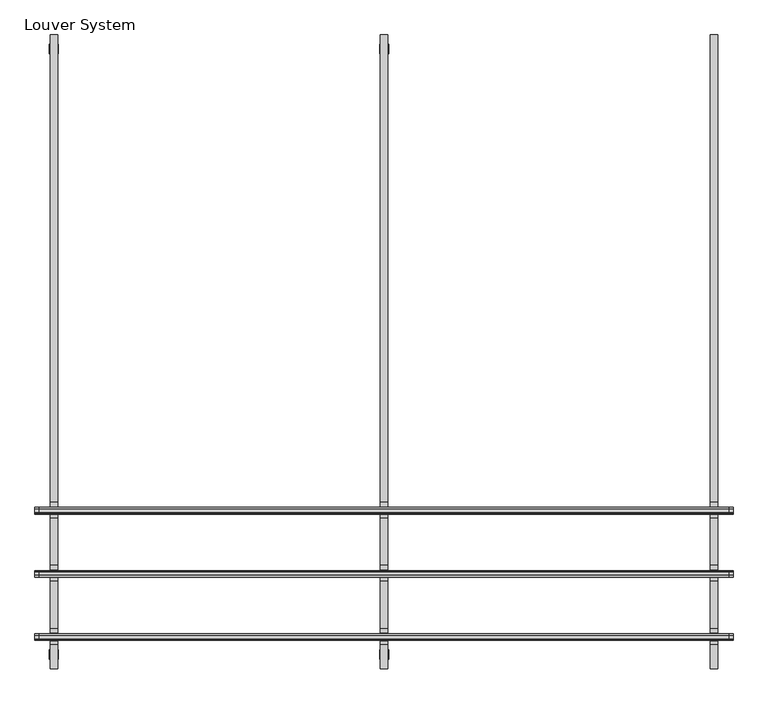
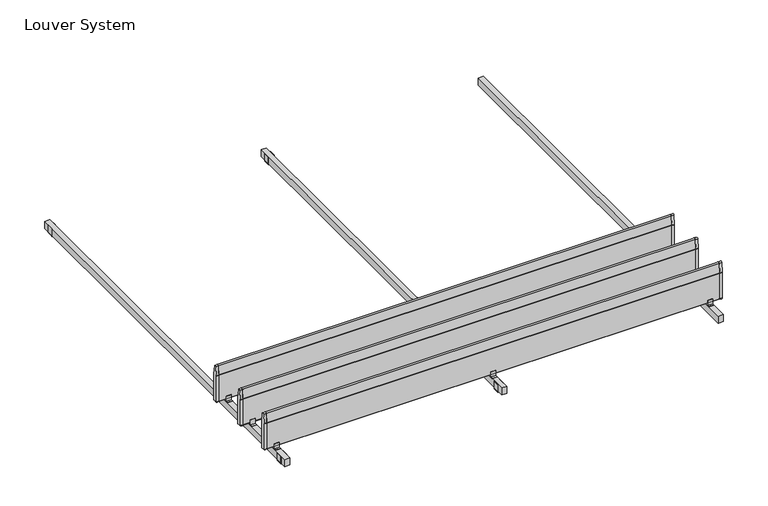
"""IFC4 building model written with IfcOpenShell, lengths in millimetres: geographic element geometry, Site_Danpal_AURA-Louvers : Louver System."""

from ifc_helpers import new_model, si_unit, point, frame, frame_2d, origin, place, context, project, spatial, polyline, circle_curve, trimmed, segment, composite_curve, outline, extrude, source, transform, mapped, element, save


def louver_system_b39b6830(model_context):
    return source(origin(), model_context, "Body", "SweptSolid", [
        extrude(outline(polyline([(1770.0000379, -1044.8564736), (1729.9999621, -1044.8564736), (1729.9999621, 2313.8435264), (1770.0000379, 2313.8435264), (1770.0000379, -1044.8564736)])), frame((0.0, 0.0, 7.6024905), z_axis=(0.0, 0.0, 1.0), x_axis=(1.0, 0.0, 0.0)), (0.0, 0.0, 1.0), 59.9995261),
        extrude(outline(polyline([(-226.5547067, 70.2377043), (-226.5547067, 112.7549354), (-225.1435264, 113.8288881), (-225.1435264, 87.8154527), (-190.0960896, 87.8154527), (-190.0960896, 114.4037008), (-188.3020227, 113.6522063), (-188.3020227, 73.9851105), (-188.3020227, 70.126602), (-162.5974003, 70.126602), (-162.5974003, 67.6050052), (-244.2757672, 67.6050052), (-244.2757672, 70.2377043), (-226.5547067, 70.2377043)])), frame((1730.0, 0.0, 0.0), z_axis=(1.0, 0.0, 0.0), x_axis=(0.0, 1.0, 0.0)), (0.0, 0.0, 1.0), 40.0),
        extrude(outline(polyline([(-226.5547067, 70.2377043), (-226.5547067, 112.7549354), (-225.1435264, 113.8288881), (-225.1435264, 87.8154527), (-190.0960896, 87.8154527), (-190.0960896, 114.4037008), (-188.3020227, 113.6522063), (-188.3020227, 73.9851105), (-188.3020227, 70.126602), (-162.5974003, 70.126602), (-162.5974003, 67.6050052), (-244.2757672, 67.6050052), (-244.2757672, 70.2377043), (-226.5547067, 70.2377043)])), frame((-20.0, 0.0, 0.0), z_axis=(1.0, 0.0, 0.0), x_axis=(0.0, 1.0, 0.0)), (0.0, 0.0, 1.0), 40.0),
        extrude(outline(polyline([(-226.5547067, 70.2377043), (-226.5547067, 112.7549354), (-225.1435264, 113.8288881), (-225.1435264, 87.8154527), (-190.0960896, 87.8154527), (-190.0960896, 114.4037008), (-188.3020227, 113.6522063), (-188.3020227, 73.9851105), (-188.3020227, 70.126602), (-162.5974003, 70.126602), (-162.5974003, 67.6050052), (-244.2757672, 67.6050052), (-244.2757672, 70.2377043), (-226.5547067, 70.2377043)])), frame((-1770.0, 0.0, 0.0), z_axis=(1.0, 0.0, 0.0), x_axis=(0.0, 1.0, 0.0)), (0.0, 0.0, 1.0), 40.0),
        extrude(outline(composite_curve([segment(polyline([(-190.0960896, 309.4391712), (-190.0960896, 90.2391712)]), True, "CONTINUOUS"), segment(trimmed(circle_curve(frame_2d((-192.519808, 90.2391712)), 2.4237184), [point((-190.0960896, 90.2391712))], [point((-192.519808, 87.8154527))], False, "CARTESIAN"), True, "CONTINUOUS"), segment(polyline([(-192.519808, 87.8154527), (-222.719808, 87.8154527)]), True, "CONTINUOUS"), segment(trimmed(circle_curve(frame_2d((-222.719808, 90.2391712)), 2.4237184), [point((-222.719808, 87.8154527))], [point((-225.1435264, 90.2391712))], False, "CARTESIAN"), True, "CONTINUOUS"), segment(polyline([(-225.1435264, 90.2391712), (-225.1435264, 309.4391712)]), True, "CONTINUOUS"), segment(trimmed(circle_curve(frame_2d((-192.519808, 309.4391712)), 32.6237184), [point((-225.1435264, 309.4391712))], [point((-224.8656461, 313.6881427))], False, "CARTESIAN"), True, "CONTINUOUS"), segment(polyline([(-224.8656461, 313.6881427), (-215.1785896, 387.4320979)]), True, "CONTINUOUS"), segment(trimmed(circle_curve(frame_2d((-207.619808, 386.4391712)), 7.6237184), [point((-215.1785896, 387.4320979))], [point((-200.0610264, 387.4320979))], False, "CARTESIAN"), True, "CONTINUOUS"), segment(polyline([(-200.0610264, 387.4320979), (-190.3739698, 313.6881427)]), True, "CONTINUOUS"), segment(trimmed(circle_curve(frame_2d((-222.719808, 309.4391712)), 32.6237184), [point((-190.3739698, 313.6881427))], [point((-190.0960896, 309.4391712))], False, "CARTESIAN"), True, "CONTINUOUS")], self_intersect=False)), frame((1829.9281148, 0.0, 0.0), z_axis=(1.0, 0.0, 0.0), x_axis=(0.0, 1.0, 0.0)), (0.0, 0.0, 1.0), 20.0718852),
        extrude(outline(composite_curve([segment(polyline([(-190.0960896, 309.4391712), (-190.0960896, 90.2391712)]), True, "CONTINUOUS"), segment(trimmed(circle_curve(frame_2d((-192.519808, 90.2391712)), 2.4237184), [point((-190.0960896, 90.2391712))], [point((-192.519808, 87.8154527))], False, "CARTESIAN"), True, "CONTINUOUS"), segment(polyline([(-192.519808, 87.8154527), (-222.719808, 87.8154527)]), True, "CONTINUOUS"), segment(trimmed(circle_curve(frame_2d((-222.719808, 90.2391712)), 2.4237184), [point((-222.719808, 87.8154527))], [point((-225.1435264, 90.2391712))], False, "CARTESIAN"), True, "CONTINUOUS"), segment(polyline([(-225.1435264, 90.2391712), (-225.1435264, 309.4391712)]), True, "CONTINUOUS"), segment(trimmed(circle_curve(frame_2d((-192.519808, 309.4391712)), 32.6237184), [point((-225.1435264, 309.4391712))], [point((-224.8656461, 313.6881427))], False, "CARTESIAN"), True, "CONTINUOUS"), segment(polyline([(-224.8656461, 313.6881427), (-215.1785896, 387.4320979)]), True, "CONTINUOUS"), segment(trimmed(circle_curve(frame_2d((-207.619808, 386.4391712)), 7.6237184), [point((-215.1785896, 387.4320979))], [point((-200.0610264, 387.4320979))], False, "CARTESIAN"), True, "CONTINUOUS"), segment(polyline([(-200.0610264, 387.4320979), (-190.3739698, 313.6881427)]), True, "CONTINUOUS"), segment(trimmed(circle_curve(frame_2d((-222.719808, 309.4391712)), 32.6237184), [point((-190.3739698, 313.6881427))], [point((-190.0960896, 309.4391712))], False, "CARTESIAN"), True, "CONTINUOUS")], self_intersect=False)), frame((-1850.0, 0.0, 0.0), z_axis=(1.0, 0.0, 0.0), x_axis=(0.0, 1.0, 0.0)), (0.0, 0.0, 1.0), 20.0),
        extrude(outline(composite_curve([segment(polyline([(-190.0960896, 309.4391712), (-190.0960896, 90.2391712)]), True, "CONTINUOUS"), segment(trimmed(circle_curve(frame_2d((-192.519808, 90.2391712)), 2.4237184), [point((-190.0960896, 90.2391712))], [point((-192.519808, 87.8154527))], False, "CARTESIAN"), True, "CONTINUOUS"), segment(polyline([(-192.519808, 87.8154527), (-222.719808, 87.8154527)]), True, "CONTINUOUS"), segment(trimmed(circle_curve(frame_2d((-222.719808, 90.2391712)), 2.4237184), [point((-222.719808, 87.8154527))], [point((-225.1435264, 90.2391712))], False, "CARTESIAN"), True, "CONTINUOUS"), segment(polyline([(-225.1435264, 90.2391712), (-225.1435264, 309.4391712)]), True, "CONTINUOUS"), segment(trimmed(circle_curve(frame_2d((-192.519808, 309.4391712)), 32.6237184), [point((-225.1435264, 309.4391712))], [point((-224.8656461, 313.6881427))], False, "CARTESIAN"), True, "CONTINUOUS"), segment(polyline([(-224.8656461, 313.6881427), (-215.1785896, 387.4320979)]), True, "CONTINUOUS"), segment(trimmed(circle_curve(frame_2d((-207.619808, 386.4391712)), 7.6237184), [point((-215.1785896, 387.4320979))], [point((-200.0610264, 387.4320979))], False, "CARTESIAN"), True, "CONTINUOUS"), segment(polyline([(-200.0610264, 387.4320979), (-190.3739698, 313.6881427)]), True, "CONTINUOUS"), segment(trimmed(circle_curve(frame_2d((-222.719808, 309.4391712)), 32.6237184), [point((-190.3739698, 313.6881427))], [point((-190.0960896, 309.4391712))], False, "CARTESIAN"), True, "CONTINUOUS")], self_intersect=False)), frame((-1830.0, 0.0, 0.0), z_axis=(1.0, 0.0, 0.0), x_axis=(0.0, 1.0, 0.0)), (0.0, 0.0, 1.0), 3659.9281148),
        extrude(outline(polyline([(-561.5547067, 70.2377043), (-561.5547067, 112.7549354), (-560.1435264, 113.8288881), (-560.1435264, 87.8154527), (-525.0960896, 87.8154527), (-525.0960896, 114.4037008), (-523.3020227, 113.6522063), (-523.3020227, 73.9851105), (-523.3020227, 70.126602), (-497.5974003, 70.126602), (-497.5974003, 67.6050052), (-579.2757672, 67.6050052), (-579.2757672, 70.2377043), (-561.5547067, 70.2377043)])), frame((1730.0, 0.0, 0.0), z_axis=(1.0, 0.0, 0.0), x_axis=(0.0, 1.0, 0.0)), (0.0, 0.0, 1.0), 40.0),
        extrude(outline(polyline([(-561.5547067, 70.2377043), (-561.5547067, 112.7549354), (-560.1435264, 113.8288881), (-560.1435264, 87.8154527), (-525.0960896, 87.8154527), (-525.0960896, 114.4037008), (-523.3020227, 113.6522063), (-523.3020227, 73.9851105), (-523.3020227, 70.126602), (-497.5974003, 70.126602), (-497.5974003, 67.6050052), (-579.2757672, 67.6050052), (-579.2757672, 70.2377043), (-561.5547067, 70.2377043)])), frame((-20.0, 0.0, 0.0), z_axis=(1.0, 0.0, 0.0), x_axis=(0.0, 1.0, 0.0)), (0.0, 0.0, 1.0), 40.0),
        extrude(outline(polyline([(-561.5547067, 70.2377043), (-561.5547067, 112.7549354), (-560.1435264, 113.8288881), (-560.1435264, 87.8154527), (-525.0960896, 87.8154527), (-525.0960896, 114.4037008), (-523.3020227, 113.6522063), (-523.3020227, 73.9851105), (-523.3020227, 70.126602), (-497.5974003, 70.126602), (-497.5974003, 67.6050052), (-579.2757672, 67.6050052), (-579.2757672, 70.2377043), (-561.5547067, 70.2377043)])), frame((-1770.0, 0.0, 0.0), z_axis=(1.0, 0.0, 0.0), x_axis=(0.0, 1.0, 0.0)), (0.0, 0.0, 1.0), 40.0),
        extrude(outline(composite_curve([segment(polyline([(-525.0960896, 309.4391712), (-525.0960896, 90.2391712)]), True, "CONTINUOUS"), segment(trimmed(circle_curve(frame_2d((-527.519808, 90.2391712)), 2.4237184), [point((-525.0960896, 90.2391712))], [point((-527.519808, 87.8154527))], False, "CARTESIAN"), True, "CONTINUOUS"), segment(polyline([(-527.519808, 87.8154527), (-557.719808, 87.8154527)]), True, "CONTINUOUS"), segment(trimmed(circle_curve(frame_2d((-557.719808, 90.2391712)), 2.4237184), [point((-557.719808, 87.8154527))], [point((-560.1435264, 90.2391712))], False, "CARTESIAN"), True, "CONTINUOUS"), segment(polyline([(-560.1435264, 90.2391712), (-560.1435264, 309.4391712)]), True, "CONTINUOUS"), segment(trimmed(circle_curve(frame_2d((-527.519808, 309.4391712)), 32.6237184), [point((-560.1435264, 309.4391712))], [point((-559.8656461, 313.6881427))], False, "CARTESIAN"), True, "CONTINUOUS"), segment(polyline([(-559.8656461, 313.6881427), (-550.1785896, 387.4320979)]), True, "CONTINUOUS"), segment(trimmed(circle_curve(frame_2d((-542.619808, 386.4391712)), 7.6237184), [point((-550.1785896, 387.4320979))], [point((-535.0610264, 387.4320979))], False, "CARTESIAN"), True, "CONTINUOUS"), segment(polyline([(-535.0610264, 387.4320979), (-525.3739698, 313.6881427)]), True, "CONTINUOUS"), segment(trimmed(circle_curve(frame_2d((-557.719808, 309.4391712)), 32.6237184), [point((-525.3739698, 313.6881427))], [point((-525.0960896, 309.4391712))], False, "CARTESIAN"), True, "CONTINUOUS")], self_intersect=False)), frame((1829.9281148, 0.0, 0.0), z_axis=(1.0, 0.0, 0.0), x_axis=(0.0, 1.0, 0.0)), (0.0, 0.0, 1.0), 20.0718852),
        extrude(outline(composite_curve([segment(polyline([(-525.0960896, 309.4391712), (-525.0960896, 90.2391712)]), True, "CONTINUOUS"), segment(trimmed(circle_curve(frame_2d((-527.519808, 90.2391712)), 2.4237184), [point((-525.0960896, 90.2391712))], [point((-527.519808, 87.8154527))], False, "CARTESIAN"), True, "CONTINUOUS"), segment(polyline([(-527.519808, 87.8154527), (-557.719808, 87.8154527)]), True, "CONTINUOUS"), segment(trimmed(circle_curve(frame_2d((-557.719808, 90.2391712)), 2.4237184), [point((-557.719808, 87.8154527))], [point((-560.1435264, 90.2391712))], False, "CARTESIAN"), True, "CONTINUOUS"), segment(polyline([(-560.1435264, 90.2391712), (-560.1435264, 309.4391712)]), True, "CONTINUOUS"), segment(trimmed(circle_curve(frame_2d((-527.519808, 309.4391712)), 32.6237184), [point((-560.1435264, 309.4391712))], [point((-559.8656461, 313.6881427))], False, "CARTESIAN"), True, "CONTINUOUS"), segment(polyline([(-559.8656461, 313.6881427), (-550.1785896, 387.4320979)]), True, "CONTINUOUS"), segment(trimmed(circle_curve(frame_2d((-542.619808, 386.4391712)), 7.6237184), [point((-550.1785896, 387.4320979))], [point((-535.0610264, 387.4320979))], False, "CARTESIAN"), True, "CONTINUOUS"), segment(polyline([(-535.0610264, 387.4320979), (-525.3739698, 313.6881427)]), True, "CONTINUOUS"), segment(trimmed(circle_curve(frame_2d((-557.719808, 309.4391712)), 32.6237184), [point((-525.3739698, 313.6881427))], [point((-525.0960896, 309.4391712))], False, "CARTESIAN"), True, "CONTINUOUS")], self_intersect=False)), frame((-1850.0, 0.0, 0.0), z_axis=(1.0, 0.0, 0.0), x_axis=(0.0, 1.0, 0.0)), (0.0, 0.0, 1.0), 20.0),
        extrude(outline(composite_curve([segment(polyline([(-525.0960896, 309.4391712), (-525.0960896, 90.2391712)]), True, "CONTINUOUS"), segment(trimmed(circle_curve(frame_2d((-527.519808, 90.2391712)), 2.4237184), [point((-525.0960896, 90.2391712))], [point((-527.519808, 87.8154527))], False, "CARTESIAN"), True, "CONTINUOUS"), segment(polyline([(-527.519808, 87.8154527), (-557.719808, 87.8154527)]), True, "CONTINUOUS"), segment(trimmed(circle_curve(frame_2d((-557.719808, 90.2391712)), 2.4237184), [point((-557.719808, 87.8154527))], [point((-560.1435264, 90.2391712))], False, "CARTESIAN"), True, "CONTINUOUS"), segment(polyline([(-560.1435264, 90.2391712), (-560.1435264, 309.4391712)]), True, "CONTINUOUS"), segment(trimmed(circle_curve(frame_2d((-527.519808, 309.4391712)), 32.6237184), [point((-560.1435264, 309.4391712))], [point((-559.8656461, 313.6881427))], False, "CARTESIAN"), True, "CONTINUOUS"), segment(polyline([(-559.8656461, 313.6881427), (-550.1785896, 387.4320979)]), True, "CONTINUOUS"), segment(trimmed(circle_curve(frame_2d((-542.619808, 386.4391712)), 7.6237184), [point((-550.1785896, 387.4320979))], [point((-535.0610264, 387.4320979))], False, "CARTESIAN"), True, "CONTINUOUS"), segment(polyline([(-535.0610264, 387.4320979), (-525.3739698, 313.6881427)]), True, "CONTINUOUS"), segment(trimmed(circle_curve(frame_2d((-557.719808, 309.4391712)), 32.6237184), [point((-525.3739698, 313.6881427))], [point((-525.0960896, 309.4391712))], False, "CARTESIAN"), True, "CONTINUOUS")], self_intersect=False)), frame((-1830.0, 0.0, 0.0), z_axis=(1.0, 0.0, 0.0), x_axis=(0.0, 1.0, 0.0)), (0.0, 0.0, 1.0), 3659.9281148),
        extrude(outline(polyline([(-896.5547067, 70.2377043), (-896.5547067, 112.7549354), (-895.1435264, 113.8288881), (-895.1435264, 87.8154527), (-860.0960896, 87.8154527), (-860.0960896, 114.4037008), (-858.3020227, 113.6522063), (-858.3020227, 73.9851105), (-858.3020227, 70.126602), (-832.5974003, 70.126602), (-832.5974003, 67.6050052), (-914.2757672, 67.6050052), (-914.2757672, 70.2377043), (-896.5547067, 70.2377043)])), frame((1730.0, 0.0, 0.0), z_axis=(1.0, 0.0, 0.0), x_axis=(0.0, 1.0, 0.0)), (0.0, 0.0, 1.0), 40.0),
        extrude(outline(polyline([(-896.5547067, 70.2377043), (-896.5547067, 112.7549354), (-895.1435264, 113.8288881), (-895.1435264, 87.8154527), (-860.0960896, 87.8154527), (-860.0960896, 114.4037008), (-858.3020227, 113.6522063), (-858.3020227, 73.9851105), (-858.3020227, 70.126602), (-832.5974003, 70.126602), (-832.5974003, 67.6050052), (-914.2757672, 67.6050052), (-914.2757672, 70.2377043), (-896.5547067, 70.2377043)])), frame((-20.0, 0.0, 0.0), z_axis=(1.0, 0.0, 0.0), x_axis=(0.0, 1.0, 0.0)), (0.0, 0.0, 1.0), 40.0),
        extrude(outline(polyline([(-896.5547067, 70.2377043), (-896.5547067, 112.7549354), (-895.1435264, 113.8288881), (-895.1435264, 87.8154527), (-860.0960896, 87.8154527), (-860.0960896, 114.4037008), (-858.3020227, 113.6522063), (-858.3020227, 73.9851105), (-858.3020227, 70.126602), (-832.5974003, 70.126602), (-832.5974003, 67.6050052), (-914.2757672, 67.6050052), (-914.2757672, 70.2377043), (-896.5547067, 70.2377043)])), frame((-1770.0, 0.0, 0.0), z_axis=(1.0, 0.0, 0.0), x_axis=(0.0, 1.0, 0.0)), (0.0, 0.0, 1.0), 40.0),
        extrude(outline(composite_curve([segment(polyline([(-860.0960896, 309.4391712), (-860.0960896, 90.2391712)]), True, "CONTINUOUS"), segment(trimmed(circle_curve(frame_2d((-862.519808, 90.2391712)), 2.4237184), [point((-860.0960896, 90.2391712))], [point((-862.519808, 87.8154527))], False, "CARTESIAN"), True, "CONTINUOUS"), segment(polyline([(-862.519808, 87.8154527), (-892.719808, 87.8154527)]), True, "CONTINUOUS"), segment(trimmed(circle_curve(frame_2d((-892.719808, 90.2391712)), 2.4237184), [point((-892.719808, 87.8154527))], [point((-895.1435264, 90.2391712))], False, "CARTESIAN"), True, "CONTINUOUS"), segment(polyline([(-895.1435264, 90.2391712), (-895.1435264, 309.4391712)]), True, "CONTINUOUS"), segment(trimmed(circle_curve(frame_2d((-862.519808, 309.4391712)), 32.6237184), [point((-895.1435264, 309.4391712))], [point((-894.8656461, 313.6881427))], False, "CARTESIAN"), True, "CONTINUOUS"), segment(polyline([(-894.8656461, 313.6881427), (-885.1785896, 387.4320979)]), True, "CONTINUOUS"), segment(trimmed(circle_curve(frame_2d((-877.619808, 386.4391712)), 7.6237184), [point((-885.1785896, 387.4320979))], [point((-870.0610264, 387.4320979))], False, "CARTESIAN"), True, "CONTINUOUS"), segment(polyline([(-870.0610264, 387.4320979), (-860.3739698, 313.6881427)]), True, "CONTINUOUS"), segment(trimmed(circle_curve(frame_2d((-892.719808, 309.4391712)), 32.6237184), [point((-860.3739698, 313.6881427))], [point((-860.0960896, 309.4391712))], False, "CARTESIAN"), True, "CONTINUOUS")], self_intersect=False)), frame((1829.9281148, 0.0, 0.0), z_axis=(1.0, 0.0, 0.0), x_axis=(0.0, 1.0, 0.0)), (0.0, 0.0, 1.0), 20.0718852),
        extrude(outline(composite_curve([segment(polyline([(-860.0960896, 309.4391712), (-860.0960896, 90.2391712)]), True, "CONTINUOUS"), segment(trimmed(circle_curve(frame_2d((-862.519808, 90.2391712)), 2.4237184), [point((-860.0960896, 90.2391712))], [point((-862.519808, 87.8154527))], False, "CARTESIAN"), True, "CONTINUOUS"), segment(polyline([(-862.519808, 87.8154527), (-892.719808, 87.8154527)]), True, "CONTINUOUS"), segment(trimmed(circle_curve(frame_2d((-892.719808, 90.2391712)), 2.4237184), [point((-892.719808, 87.8154527))], [point((-895.1435264, 90.2391712))], False, "CARTESIAN"), True, "CONTINUOUS"), segment(polyline([(-895.1435264, 90.2391712), (-895.1435264, 309.4391712)]), True, "CONTINUOUS"), segment(trimmed(circle_curve(frame_2d((-862.519808, 309.4391712)), 32.6237184), [point((-895.1435264, 309.4391712))], [point((-894.8656461, 313.6881427))], False, "CARTESIAN"), True, "CONTINUOUS"), segment(polyline([(-894.8656461, 313.6881427), (-885.1785896, 387.4320979)]), True, "CONTINUOUS"), segment(trimmed(circle_curve(frame_2d((-877.619808, 386.4391712)), 7.6237184), [point((-885.1785896, 387.4320979))], [point((-870.0610264, 387.4320979))], False, "CARTESIAN"), True, "CONTINUOUS"), segment(polyline([(-870.0610264, 387.4320979), (-860.3739698, 313.6881427)]), True, "CONTINUOUS"), segment(trimmed(circle_curve(frame_2d((-892.719808, 309.4391712)), 32.6237184), [point((-860.3739698, 313.6881427))], [point((-860.0960896, 309.4391712))], False, "CARTESIAN"), True, "CONTINUOUS")], self_intersect=False)), frame((-1850.0, 0.0, 0.0), z_axis=(1.0, 0.0, 0.0), x_axis=(0.0, 1.0, 0.0)), (0.0, 0.0, 1.0), 20.0),
        extrude(outline(composite_curve([segment(polyline([(-860.0960896, 309.4391712), (-860.0960896, 90.2391712)]), True, "CONTINUOUS"), segment(trimmed(circle_curve(frame_2d((-862.519808, 90.2391712)), 2.4237184), [point((-860.0960896, 90.2391712))], [point((-862.519808, 87.8154527))], False, "CARTESIAN"), True, "CONTINUOUS"), segment(polyline([(-862.519808, 87.8154527), (-892.719808, 87.8154527)]), True, "CONTINUOUS"), segment(trimmed(circle_curve(frame_2d((-892.719808, 90.2391712)), 2.4237184), [point((-892.719808, 87.8154527))], [point((-895.1435264, 90.2391712))], False, "CARTESIAN"), True, "CONTINUOUS"), segment(polyline([(-895.1435264, 90.2391712), (-895.1435264, 309.4391712)]), True, "CONTINUOUS"), segment(trimmed(circle_curve(frame_2d((-862.519808, 309.4391712)), 32.6237184), [point((-895.1435264, 309.4391712))], [point((-894.8656461, 313.6881427))], False, "CARTESIAN"), True, "CONTINUOUS"), segment(polyline([(-894.8656461, 313.6881427), (-885.1785896, 387.4320979)]), True, "CONTINUOUS"), segment(trimmed(circle_curve(frame_2d((-877.619808, 386.4391712)), 7.6237184), [point((-885.1785896, 387.4320979))], [point((-870.0610264, 387.4320979))], False, "CARTESIAN"), True, "CONTINUOUS"), segment(polyline([(-870.0610264, 387.4320979), (-860.3739698, 313.6881427)]), True, "CONTINUOUS"), segment(trimmed(circle_curve(frame_2d((-892.719808, 309.4391712)), 32.6237184), [point((-860.3739698, 313.6881427))], [point((-860.0960896, 309.4391712))], False, "CARTESIAN"), True, "CONTINUOUS")], self_intersect=False)), frame((-1830.0, 0.0, 0.0), z_axis=(1.0, 0.0, 0.0), x_axis=(0.0, 1.0, 0.0)), (0.0, 0.0, 1.0), 3659.9281148),
        extrude(outline(composite_curve([segment(trimmed(circle_curve(frame_2d((3.9999684, -19.0000695)), 3.9999684), [point((3.9999684, -23.0000379))], [point((0.0, -19.0000695))], False, "CARTESIAN"), True, "CONTINUOUS"), segment(polyline([(0.0, -19.0000695), (0.0, 20.1999937)]), True, "CONTINUOUS"), segment(trimmed(circle_curve(frame_2d((3.9999684, 20.1999937)), 3.9999684), [point((0.0, 20.1999937))], [point((3.9999684, 24.1999621))], False, "CARTESIAN"), True, "CONTINUOUS"), segment(polyline([(3.9999684, 24.1999621), (66.0607794, 24.1999621), (66.0607794, 21.1999621), (4.1675701, 21.1999621)]), True, "CONTINUOUS"), segment(trimmed(circle_curve(frame_2d((4.1675701, 20.2310915)), 0.9688707), [point((4.1675701, 21.1999621))], [point((3.1986994, 20.2310915))], True, "CARTESIAN"), True, "CONTINUOUS"), segment(polyline([(3.1986994, 20.2310915), (3.1986994, -18.9692267)]), True, "CONTINUOUS"), segment(trimmed(circle_curve(frame_2d((4.2295106, -18.9692267)), 1.0308112), [point((3.1986994, -18.9692267))], [point((4.2295106, -20.0000379))], True, "CARTESIAN"), True, "CONTINUOUS"), segment(polyline([(4.2295106, -20.0000379), (66.0607794, -20.0000379), (66.0607794, -23.0000379), (3.9999684, -23.0000379)]), True, "CONTINUOUS")], self_intersect=False)), frame((0.0, -995.2915116, 0.0), z_axis=(0.0, 1.0, 0.0), x_axis=(0.0, 0.0, 1.0)), (0.0, 0.0, 1.0), 50.136877),
        extrude(outline(composite_curve([segment(trimmed(circle_curve(frame_2d((3.9999684, -19.0000695)), 3.9999684), [point((3.9999684, -23.0000379))], [point((0.0, -19.0000695))], False, "CARTESIAN"), True, "CONTINUOUS"), segment(polyline([(0.0, -19.0000695), (0.0, 20.1999937)]), True, "CONTINUOUS"), segment(trimmed(circle_curve(frame_2d((3.9999684, 20.1999937)), 3.9999684), [point((0.0, 20.1999937))], [point((3.9999684, 24.1999621))], False, "CARTESIAN"), True, "CONTINUOUS"), segment(polyline([(3.9999684, 24.1999621), (66.0607794, 24.1999621), (66.0607794, 21.1999621), (4.1675701, 21.1999621)]), True, "CONTINUOUS"), segment(trimmed(circle_curve(frame_2d((4.1675701, 20.2310915)), 0.9688707), [point((4.1675701, 21.1999621))], [point((3.1986994, 20.2310915))], True, "CARTESIAN"), True, "CONTINUOUS"), segment(polyline([(3.1986994, 20.2310915), (3.1986994, -18.9692267)]), True, "CONTINUOUS"), segment(trimmed(circle_curve(frame_2d((4.2295106, -18.9692267)), 1.0308112), [point((3.1986994, -18.9692267))], [point((4.2295106, -20.0000379))], True, "CARTESIAN"), True, "CONTINUOUS"), segment(polyline([(4.2295106, -20.0000379), (66.0607794, -20.0000379), (66.0607794, -23.0000379), (3.9999684, -23.0000379)]), True, "CONTINUOUS")], self_intersect=False)), frame((0.0, 2213.8546347, 0.0), z_axis=(0.0, 1.0, 0.0), x_axis=(0.0, 0.0, 1.0)), (0.0, 0.0, 1.0), 50.136877),
        extrude(outline(polyline([(20.0000379, -1045.0), (-20.0000379, -1045.0), (-20.0000379, 2313.7), (20.0000379, 2313.7), (20.0000379, -1045.0)])), frame((0.0, 0.0, 7.6024905), z_axis=(0.0, 0.0, 1.0), x_axis=(1.0, 0.0, 0.0)), (0.0, 0.0, 1.0), 59.9995261),
        extrude(outline(composite_curve([segment(trimmed(circle_curve(frame_2d((3.9999684, -1769.0000695)), 3.9999684), [point((3.9999684, -1773.0000379))], [point((0.0, -1769.0000695))], False, "CARTESIAN"), True, "CONTINUOUS"), segment(polyline([(0.0, -1769.0000695), (0.0, -1729.8000063)]), True, "CONTINUOUS"), segment(trimmed(circle_curve(frame_2d((3.9999684, -1729.8000063)), 3.9999684), [point((0.0, -1729.8000063))], [point((3.9999684, -1725.8000379))], False, "CARTESIAN"), True, "CONTINUOUS"), segment(polyline([(3.9999684, -1725.8000379), (66.0607794, -1725.8000379), (66.0607794, -1728.8000379), (4.1675701, -1728.8000379)]), True, "CONTINUOUS"), segment(trimmed(circle_curve(frame_2d((4.1675701, -1729.7689085)), 0.9688707), [point((4.1675701, -1728.8000379))], [point((3.1986994, -1729.7689085))], True, "CARTESIAN"), True, "CONTINUOUS"), segment(polyline([(3.1986994, -1729.7689085), (3.1986994, -1768.9692267)]), True, "CONTINUOUS"), segment(trimmed(circle_curve(frame_2d((4.2295106, -1768.9692267)), 1.0308112), [point((3.1986994, -1768.9692267))], [point((4.2295106, -1770.0000379))], True, "CARTESIAN"), True, "CONTINUOUS"), segment(polyline([(4.2295106, -1770.0000379), (66.0607794, -1770.0000379), (66.0607794, -1773.0000379), (3.9999684, -1773.0000379)]), True, "CONTINUOUS")], self_intersect=False)), frame((0.0, -995.435038, 0.0), z_axis=(0.0, 1.0, 0.0), x_axis=(0.0, 0.0, 1.0)), (0.0, 0.0, 1.0), 50.136877),
        extrude(outline(composite_curve([segment(trimmed(circle_curve(frame_2d((3.9999684, -1769.0000695)), 3.9999684), [point((3.9999684, -1773.0000379))], [point((0.0, -1769.0000695))], False, "CARTESIAN"), True, "CONTINUOUS"), segment(polyline([(0.0, -1769.0000695), (0.0, -1729.8000063)]), True, "CONTINUOUS"), segment(trimmed(circle_curve(frame_2d((3.9999684, -1729.8000063)), 3.9999684), [point((0.0, -1729.8000063))], [point((3.9999684, -1725.8000379))], False, "CARTESIAN"), True, "CONTINUOUS"), segment(polyline([(3.9999684, -1725.8000379), (66.0607794, -1725.8000379), (66.0607794, -1728.8000379), (4.1675701, -1728.8000379)]), True, "CONTINUOUS"), segment(trimmed(circle_curve(frame_2d((4.1675701, -1729.7689085)), 0.9688707), [point((4.1675701, -1728.8000379))], [point((3.1986994, -1729.7689085))], True, "CARTESIAN"), True, "CONTINUOUS"), segment(polyline([(3.1986994, -1729.7689085), (3.1986994, -1768.9692267)]), True, "CONTINUOUS"), segment(trimmed(circle_curve(frame_2d((4.2295106, -1768.9692267)), 1.0308112), [point((3.1986994, -1768.9692267))], [point((4.2295106, -1770.0000379))], True, "CARTESIAN"), True, "CONTINUOUS"), segment(polyline([(4.2295106, -1770.0000379), (66.0607794, -1770.0000379), (66.0607794, -1773.0000379), (3.9999684, -1773.0000379)]), True, "CONTINUOUS")], self_intersect=False)), frame((0.0, 2213.7111082, 0.0), z_axis=(0.0, 1.0, 0.0), x_axis=(0.0, 0.0, 1.0)), (0.0, 0.0, 1.0), 50.136877),
        extrude(outline(polyline([(-1729.9999621, -1045.1435264), (-1770.0000379, -1045.1435264), (-1770.0000379, 2313.5564736), (-1729.9999621, 2313.5564736), (-1729.9999621, -1045.1435264)])), frame((0.0, 0.0, 7.6024905), z_axis=(0.0, 0.0, 1.0), x_axis=(1.0, 0.0, 0.0)), (0.0, 0.0, 1.0), 59.9995261),
    ])


if __name__ == "__main__":
    model = new_model("IFC4")
    model_context = context("Model", 3, world=origin())
    ifc_project = project(units=[si_unit("LENGTHUNIT", "METRE", prefix="MILLI")], contexts=[model_context])
    site = spatial("IfcSite", under=ifc_project)
    building = spatial("IfcBuilding", under=site)
    placement = place(None, origin())
    louver_system_shape = louver_system_b39b6830(model_context)
    element("IfcGeographicElement", 1, ObjectType="Site_Danpal_AURA-Louvers : Louver System", at=placement, inside=building, context=model_context, shape_type="MappedRepresentation", body=[
        mapped(louver_system_shape, transform((0.0, 0.0, 0.0), x_axis=(1.0, 0.0, 0.0), y_axis=(0.0, 1.0, 0.0), z_axis=(0.0, 0.0, 1.0))),
    ])
    save(model, "model.ifc")
